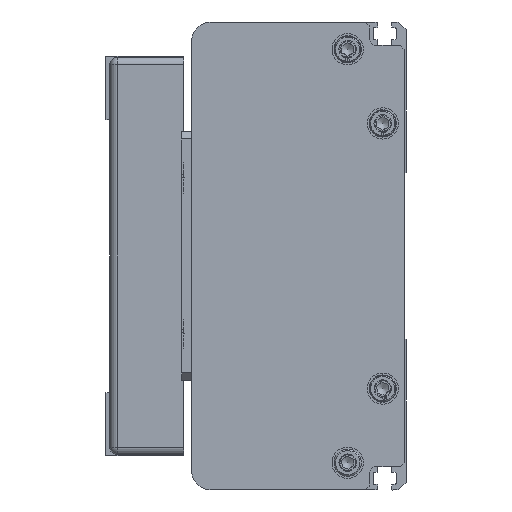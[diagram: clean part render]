
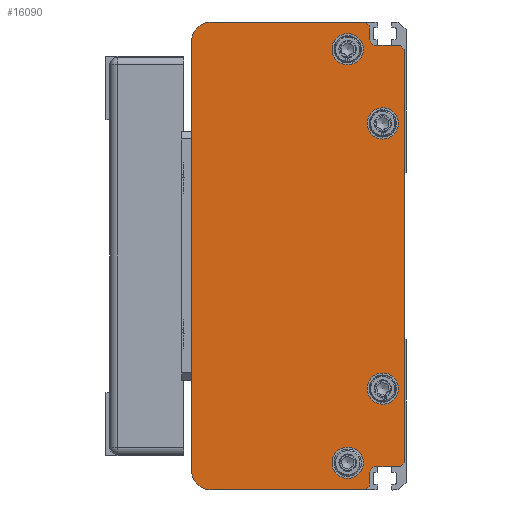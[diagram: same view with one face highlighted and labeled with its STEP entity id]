
A CAD part, left-side view. The second image highlights one B-rep face of the part: STEP entity #16090.
In plain terms, the highlighted planar face has unit normal (-1, 0, 0) as drawn and (0, 0, -1) by its records, which use the part's own axes.
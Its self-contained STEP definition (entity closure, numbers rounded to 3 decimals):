
#866=FACE_BOUND('',#2705,.T.);
#867=FACE_BOUND('',#2706,.T.);
#868=FACE_BOUND('',#2707,.T.);
#869=FACE_BOUND('',#2708,.T.);
#1188=CIRCLE('',#17254,5.);
#1189=CIRCLE('',#17256,5.);
#1190=CIRCLE('',#17257,2.);
#1191=CIRCLE('',#17258,2.);
#1192=CIRCLE('',#17259,4.);
#1193=CIRCLE('',#17260,4.);
#1194=CIRCLE('',#17261,4.);
#1195=CIRCLE('',#17262,4.);
#1638=FACE_OUTER_BOUND('',#2704,.T.);
#2704=EDGE_LOOP('',(#11138,#11139,#11140,#11141,#11142,#11143,#11144,#11145,
#11146,#11147,#11148,#11149,#11150,#11151,#11152,#11153));
#2705=EDGE_LOOP('',(#11154));
#2706=EDGE_LOOP('',(#11155));
#2707=EDGE_LOOP('',(#11156));
#2708=EDGE_LOOP('',(#11157));
#3947=LINE('',#23254,#5485);
#3948=LINE('',#23256,#5486);
#3949=LINE('',#23259,#5487);
#3950=LINE('',#23261,#5488);
#3951=LINE('',#23263,#5489);
#3952=LINE('',#23265,#5490);
#3953=LINE('',#23269,#5491);
#3954=LINE('',#23271,#5492);
#3955=LINE('',#23273,#5493);
#3956=LINE('',#23275,#5494);
#3957=LINE('',#23277,#5495);
#3958=LINE('',#23280,#5496);
#5485=VECTOR('',#18860,1.414);
#5486=VECTOR('',#18861,39.5);
#5487=VECTOR('',#18864,110.);
#5488=VECTOR('',#18865,39.5);
#5489=VECTOR('',#18866,1.414);
#5490=VECTOR('',#18867,3.);
#5491=VECTOR('',#18870,6.);
#5492=VECTOR('',#18871,1.414);
#5493=VECTOR('',#18872,106.);
#5494=VECTOR('',#18873,1.414);
#5495=VECTOR('',#18874,6.);
#5496=VECTOR('',#18877,3.);
#7069=VERTEX_POINT('',#23246);
#7070=VERTEX_POINT('',#23248);
#7071=VERTEX_POINT('',#23252);
#7072=VERTEX_POINT('',#23253);
#7073=VERTEX_POINT('',#23255);
#7074=VERTEX_POINT('',#23257);
#7075=VERTEX_POINT('',#23260);
#7076=VERTEX_POINT('',#23262);
#7077=VERTEX_POINT('',#23264);
#7078=VERTEX_POINT('',#23266);
#7079=VERTEX_POINT('',#23268);
#7080=VERTEX_POINT('',#23270);
#7081=VERTEX_POINT('',#23272);
#7082=VERTEX_POINT('',#23274);
#7083=VERTEX_POINT('',#23276);
#7084=VERTEX_POINT('',#23278);
#7085=VERTEX_POINT('',#23281);
#7086=VERTEX_POINT('',#23283);
#7087=VERTEX_POINT('',#23285);
#7088=VERTEX_POINT('',#23287);
#8686=EDGE_CURVE('',#7069,#7070,#1188,.T.);
#8688=EDGE_CURVE('',#7071,#7072,#3947,.T.);
#8689=EDGE_CURVE('',#7071,#7073,#3948,.T.);
#8690=EDGE_CURVE('',#7074,#7073,#1189,.T.);
#8691=EDGE_CURVE('',#7074,#7070,#3949,.T.);
#8692=EDGE_CURVE('',#7069,#7075,#3950,.T.);
#8693=EDGE_CURVE('',#7076,#7075,#3951,.T.);
#8694=EDGE_CURVE('',#7076,#7077,#3952,.T.);
#8695=EDGE_CURVE('',#7077,#7078,#1190,.T.);
#8696=EDGE_CURVE('',#7078,#7079,#3953,.T.);
#8697=EDGE_CURVE('',#7080,#7079,#3954,.T.);
#8698=EDGE_CURVE('',#7080,#7081,#3955,.T.);
#8699=EDGE_CURVE('',#7082,#7081,#3956,.T.);
#8700=EDGE_CURVE('',#7082,#7083,#3957,.T.);
#8701=EDGE_CURVE('',#7083,#7084,#1191,.T.);
#8702=EDGE_CURVE('',#7084,#7072,#3958,.T.);
#8703=EDGE_CURVE('',#7085,#7085,#1192,.T.);
#8704=EDGE_CURVE('',#7086,#7086,#1193,.T.);
#8705=EDGE_CURVE('',#7087,#7087,#1194,.T.);
#8706=EDGE_CURVE('',#7088,#7088,#1195,.T.);
#11138=ORIENTED_EDGE('',*,*,#8688,.F.);
#11139=ORIENTED_EDGE('',*,*,#8689,.T.);
#11140=ORIENTED_EDGE('',*,*,#8690,.F.);
#11141=ORIENTED_EDGE('',*,*,#8691,.T.);
#11142=ORIENTED_EDGE('',*,*,#8686,.F.);
#11143=ORIENTED_EDGE('',*,*,#8692,.T.);
#11144=ORIENTED_EDGE('',*,*,#8693,.F.);
#11145=ORIENTED_EDGE('',*,*,#8694,.T.);
#11146=ORIENTED_EDGE('',*,*,#8695,.T.);
#11147=ORIENTED_EDGE('',*,*,#8696,.T.);
#11148=ORIENTED_EDGE('',*,*,#8697,.F.);
#11149=ORIENTED_EDGE('',*,*,#8698,.T.);
#11150=ORIENTED_EDGE('',*,*,#8699,.F.);
#11151=ORIENTED_EDGE('',*,*,#8700,.T.);
#11152=ORIENTED_EDGE('',*,*,#8701,.T.);
#11153=ORIENTED_EDGE('',*,*,#8702,.T.);
#11154=ORIENTED_EDGE('',*,*,#8703,.T.);
#11155=ORIENTED_EDGE('',*,*,#8704,.T.);
#11156=ORIENTED_EDGE('',*,*,#8705,.T.);
#11157=ORIENTED_EDGE('',*,*,#8706,.T.);
#15450=PLANE('',#17255);
#16090=ADVANCED_FACE('',(#1638,#866,#867,#868,#869),#15450,.F.);
#17254=AXIS2_PLACEMENT_3D('',#23249,#18855,#18856);
#17255=AXIS2_PLACEMENT_3D('',#23251,#18858,#18859);
#17256=AXIS2_PLACEMENT_3D('',#23258,#18862,#18863);
#17257=AXIS2_PLACEMENT_3D('',#23267,#18868,#18869);
#17258=AXIS2_PLACEMENT_3D('',#23279,#18875,#18876);
#17259=AXIS2_PLACEMENT_3D('',#23282,#18878,#18879);
#17260=AXIS2_PLACEMENT_3D('',#23284,#18880,#18881);
#17261=AXIS2_PLACEMENT_3D('',#23286,#18882,#18883);
#17262=AXIS2_PLACEMENT_3D('',#23288,#18884,#18885);
#18855=DIRECTION('center_axis',(0.,0.,
1.));
#18856=DIRECTION('ref_axis',(0.707,0.707,0.));
#18858=DIRECTION('center_axis',(0.,0.,
1.));
#18859=DIRECTION('ref_axis',(-1.,-0.018,0.));
#18860=DIRECTION('',(0.707,-0.707,0.));
#18861=DIRECTION('',(0.,1.,0.));
#18862=DIRECTION('center_axis',(0.,0.,
1.));
#18863=DIRECTION('ref_axis',(-0.707,0.707,0.));
#18864=DIRECTION('',(1.,0.,0.));
#18865=DIRECTION('',(0.,-1.,0.));
#18866=DIRECTION('',(0.707,0.707,0.));
#18867=DIRECTION('',(-1.,0.,0.));
#18868=DIRECTION('center_axis',(0.,0.,
1.));
#18869=DIRECTION('ref_axis',(0.,-1.,0.));
#18870=DIRECTION('',(0.,-1.,0.));
#18871=DIRECTION('',(0.707,0.707,0.));
#18872=DIRECTION('',(-1.,0.,0.));
#18873=DIRECTION('',(0.707,-0.707,0.));
#18874=DIRECTION('',(0.,1.,0.));
#18875=DIRECTION('center_axis',(0.,0.,
1.));
#18876=DIRECTION('ref_axis',(1.,0.,0.));
#18877=DIRECTION('',(-1.,0.,0.));
#18878=DIRECTION('center_axis',(0.,0.,
1.));
#18879=DIRECTION('ref_axis',(0.,1.,0.));
#18880=DIRECTION('center_axis',(0.,0.,
1.));
#18881=DIRECTION('ref_axis',(0.,1.,0.));
#18882=DIRECTION('center_axis',(0.,0.,
1.));
#18883=DIRECTION('ref_axis',(0.,1.,0.));
#18884=DIRECTION('center_axis',(0.,0.,
1.));
#18885=DIRECTION('ref_axis',(0.,1.,0.));
#23246=CARTESIAN_POINT('',(124.75,50.75,-1492.5));
#23248=CARTESIAN_POINT('',(119.75,55.75,-1492.5));
#23249=CARTESIAN_POINT('Origin',(119.75,50.75,-1492.5));
#23251=CARTESIAN_POINT('Origin',(64.75,28.5,-1492.5));
#23252=CARTESIAN_POINT('',(4.75,11.25,-1492.5));
#23253=CARTESIAN_POINT('',(5.75,10.25,-1492.5));
#23254=CARTESIAN_POINT('',(4.75,11.25,-1492.5));
#23255=CARTESIAN_POINT('',(4.75,50.75,-1492.5));
#23256=CARTESIAN_POINT('',(4.75,11.25,-1492.5));
#23257=CARTESIAN_POINT('',(9.75,55.75,-1492.5));
#23258=CARTESIAN_POINT('Origin',(9.75,50.75,-1492.5));
#23259=CARTESIAN_POINT('',(9.75,55.75,-1492.5));
#23260=CARTESIAN_POINT('',(124.75,11.25,-1492.5));
#23261=CARTESIAN_POINT('',(124.75,50.75,-1492.5));
#23262=CARTESIAN_POINT('',(123.75,10.25,-1492.5));
#23263=CARTESIAN_POINT('',(123.75,10.25,-1492.5));
#23264=CARTESIAN_POINT('',(120.75,10.25,-1492.5));
#23265=CARTESIAN_POINT('',(123.75,10.25,-1492.5));
#23266=CARTESIAN_POINT('',(118.75,8.25,-1492.5));
#23267=CARTESIAN_POINT('Origin',(120.75,8.25,-1492.5));
#23268=CARTESIAN_POINT('',(118.75,2.25,-1492.5));
#23269=CARTESIAN_POINT('',(118.75,8.25,-1492.5));
#23270=CARTESIAN_POINT('',(117.75,1.25,-1492.5));
#23271=CARTESIAN_POINT('',(117.75,1.25,-1492.5));
#23272=CARTESIAN_POINT('',(11.75,1.25,-1492.5));
#23273=CARTESIAN_POINT('',(117.75,1.25,-1492.5));
#23274=CARTESIAN_POINT('',(10.75,2.25,-1492.5));
#23275=CARTESIAN_POINT('',(10.75,2.25,-1492.5));
#23276=CARTESIAN_POINT('',(10.75,8.25,-1492.5));
#23277=CARTESIAN_POINT('',(10.75,2.25,-1492.5));
#23278=CARTESIAN_POINT('',(8.75,10.25,-1492.5));
#23279=CARTESIAN_POINT('Origin',(8.75,8.25,-1492.5));
#23280=CARTESIAN_POINT('',(8.75,10.25,-1492.5));
#23281=CARTESIAN_POINT('',(30.75,10.75,-1492.5));
#23282=CARTESIAN_POINT('Origin',(30.75,6.75,-1492.5));
#23283=CARTESIAN_POINT('',(98.75,10.75,-1492.5));
#23284=CARTESIAN_POINT('Origin',(98.75,6.75,-1492.5));
#23285=CARTESIAN_POINT('',(11.75,19.75,-1492.5));
#23286=CARTESIAN_POINT('Origin',(11.75,15.75,-1492.5));
#23287=CARTESIAN_POINT('',(117.75,19.75,-1492.5));
#23288=CARTESIAN_POINT('Origin',(117.75,15.75,-1492.5));
